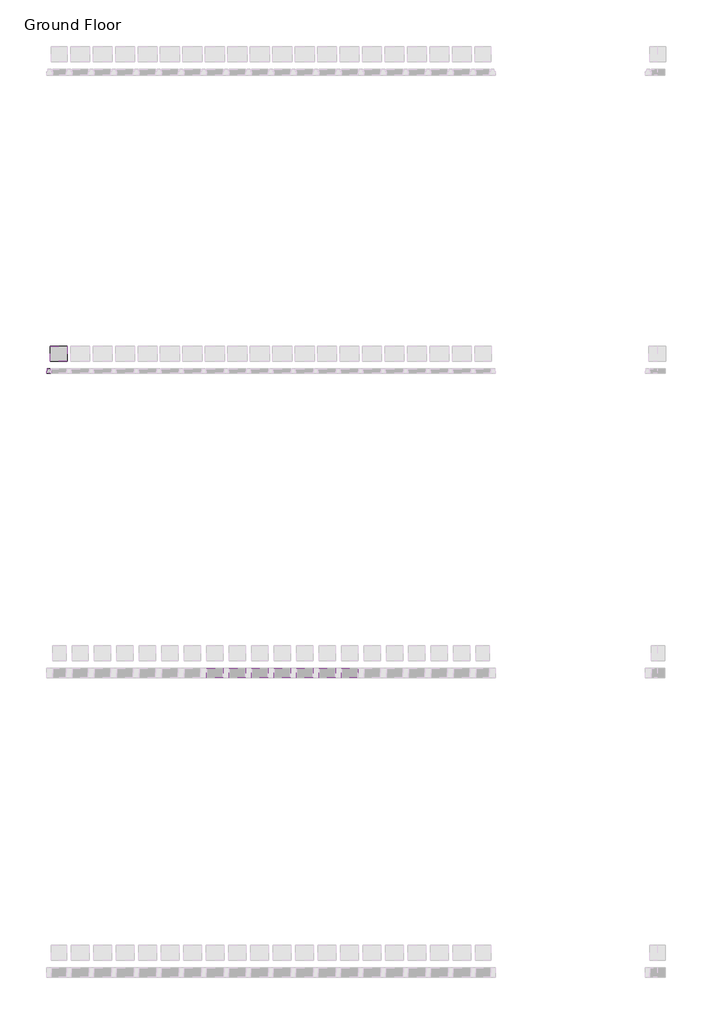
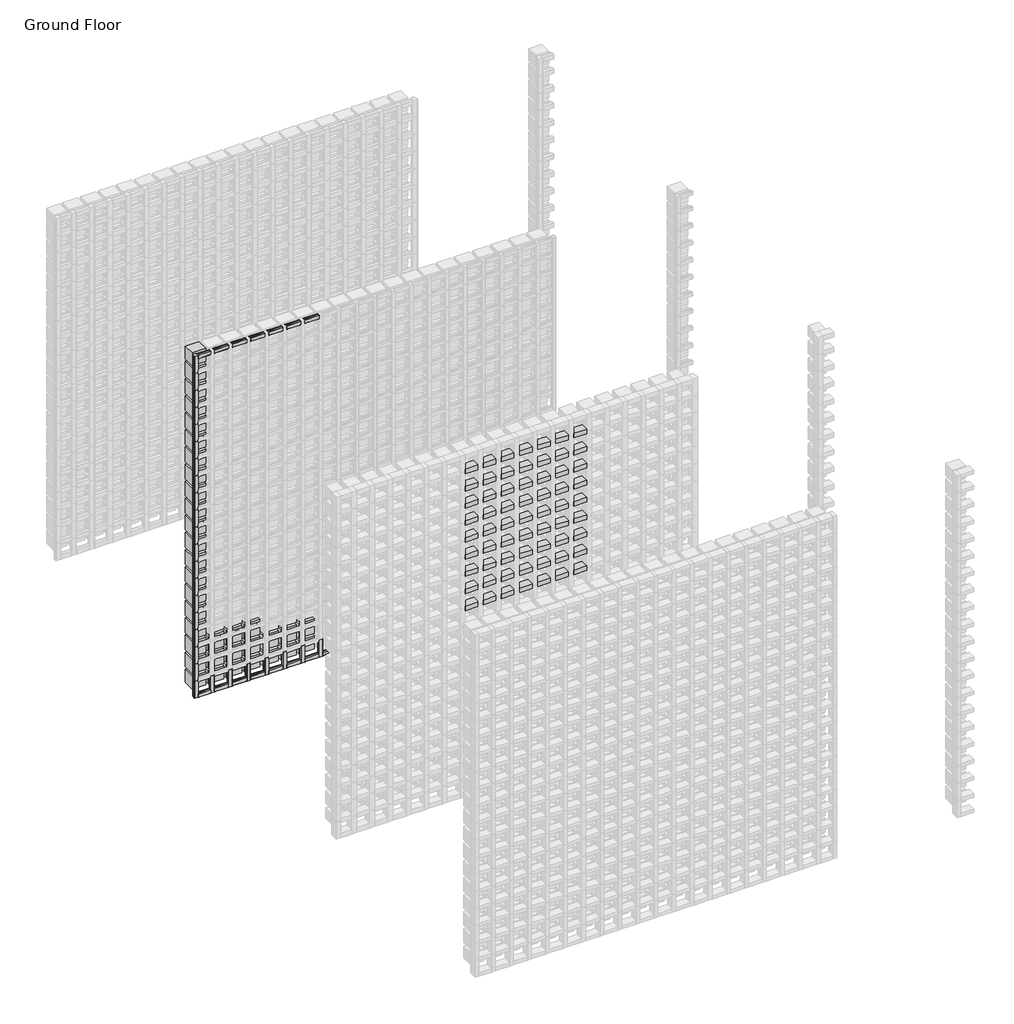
# One storey, part 85 of 350: 105 members, 35 plates.
"""IFC4 building model written with IfcOpenShell, lengths in millimetres."""

from ifc_helpers import new_model, si_unit, origin, place, context, project, spatial, transform, mapped, element, save
from components import rectangular_mullion_97e353d0, rectangular_mullion_f1976eb1, rectangular_mullion_66d447bf, rectangular_mullion_02594090, rectangular_mullion_7f8dba3f, rectangular_mullion_790ae51e, rectangular_mullion_f16743ad, empty_system_panel_empty_5a3607ba, empty_system_panel_empty_c8609655, empty_system_panel_empty_babc703c, empty_system_panel_empty_53187d3d

model = new_model("IFC4")

# Units and contexts
model_context = context("Model", 3, world=origin())
ifc_project = project(units=[si_unit("LENGTHUNIT", "METRE", prefix="MILLI")], contexts=[model_context])

# Site, building, storey
site = spatial("IfcSite", under=ifc_project)
building = spatial("IfcBuilding", under=site)
storey = spatial("IfcBuildingStorey", under=building, Name="Ground Floor", Elevation=0.0)

# Members
placement = place(None, origin())
rectangular_mullion_shape = rectangular_mullion_97e353d0(model_context)
element("IfcMember", 1, ObjectType="Rectangular Mullion : Batten_Timber_Modinex_Austratus_Grid_Fascia_40x65_AlaskanYellowCedar", at=placement, inside=storey, context=model_context, shape_type="MappedRepresentation", body=[
    mapped(rectangular_mullion_shape, transform((3096.4361642, 40968.2978302, 1650.0), x_axis=(0.0, 0.0, 1.0), y_axis=(0.0, -1.0, 0.0), z_axis=(1.0, 0.0, 0.0))),
])
element("IfcMember", 2, ObjectType="Rectangular Mullion : Batten_Timber_Modinex_Austratus_Grid_Fascia_40x65_AlaskanYellowCedar", at=placement, inside=storey, context=model_context, shape_type="MappedRepresentation", body=[
    mapped(rectangular_mullion_shape, transform((3246.4361642, 40968.2978302, 1650.0), x_axis=(0.0, 0.0, 1.0), y_axis=(0.0, -1.0, 0.0), z_axis=(1.0, 0.0, 0.0))),
])
element("IfcMember", 3, ObjectType="Rectangular Mullion : Batten_Timber_Modinex_Austratus_Grid_Fascia_40x65_AlaskanYellowCedar", at=placement, inside=storey, context=model_context, shape_type="MappedRepresentation", body=[
    mapped(rectangular_mullion_shape, transform((3396.4361642, 40968.2978302, 1650.0), x_axis=(0.0, 0.0, 1.0), y_axis=(0.0, -1.0, 0.0), z_axis=(1.0, 0.0, 0.0))),
])
element("IfcMember", 4, ObjectType="Rectangular Mullion : Batten_Timber_Modinex_Austratus_Grid_Fascia_40x65_AlaskanYellowCedar", at=placement, inside=storey, context=model_context, shape_type="MappedRepresentation", body=[
    mapped(rectangular_mullion_shape, transform((3546.4361642, 40968.2978302, 1650.0), x_axis=(0.0, 0.0, 1.0), y_axis=(0.0, -1.0, 0.0), z_axis=(1.0, 0.0, 0.0))),
])
element("IfcMember", 5, ObjectType="Rectangular Mullion : Batten_Timber_Modinex_Austratus_Grid_Fascia_40x65_AlaskanYellowCedar", at=placement, inside=storey, context=model_context, shape_type="MappedRepresentation", body=[
    mapped(rectangular_mullion_shape, transform((3696.4361642, 40968.2978302, 1650.0), x_axis=(0.0, 0.0, 1.0), y_axis=(0.0, -1.0, 0.0), z_axis=(1.0, 0.0, 0.0))),
])
element("IfcMember", 6, ObjectType="Rectangular Mullion : Batten_Timber_Modinex_Austratus_Grid_Fascia_40x65_AlaskanYellowCedar", at=placement, inside=storey, context=model_context, shape_type="MappedRepresentation", body=[
    mapped(rectangular_mullion_shape, transform((3846.4361642, 40968.2978302, 1650.0), x_axis=(0.0, 0.0, 1.0), y_axis=(0.0, -1.0, 0.0), z_axis=(1.0, 0.0, 0.0))),
])
element("IfcMember", 7, ObjectType="Rectangular Mullion : Batten_Timber_Modinex_Austratus_Grid_Fascia_40x65_AlaskanYellowCedar", at=placement, inside=storey, context=model_context, shape_type="MappedRepresentation", body=[
    mapped(rectangular_mullion_shape, transform((3996.4361642, 40968.2978302, 1650.0), x_axis=(0.0, 0.0, 1.0), y_axis=(0.0, -1.0, 0.0), z_axis=(1.0, 0.0, 0.0))),
])
element("IfcMember", 8, ObjectType="Rectangular Mullion : Batten_Timber_Modinex_Austratus_Grid_Fascia_40x65_AlaskanYellowCedar", at=placement, inside=storey, context=model_context, shape_type="MappedRepresentation", body=[
    mapped(rectangular_mullion_shape, transform((3096.4361642, 40968.2978302, 1800.0), x_axis=(0.0, 0.0, 1.0), y_axis=(0.0, -1.0, 0.0), z_axis=(1.0, 0.0, 0.0))),
])
element("IfcMember", 9, ObjectType="Rectangular Mullion : Batten_Timber_Modinex_Austratus_Grid_Fascia_40x65_AlaskanYellowCedar", at=placement, inside=storey, context=model_context, shape_type="MappedRepresentation", body=[
    mapped(rectangular_mullion_shape, transform((3246.4361642, 40968.2978302, 1800.0), x_axis=(0.0, 0.0, 1.0), y_axis=(0.0, -1.0, 0.0), z_axis=(1.0, 0.0, 0.0))),
])
element("IfcMember", 10, ObjectType="Rectangular Mullion : Batten_Timber_Modinex_Austratus_Grid_Fascia_40x65_AlaskanYellowCedar", at=placement, inside=storey, context=model_context, shape_type="MappedRepresentation", body=[
    mapped(rectangular_mullion_shape, transform((3396.4361642, 40968.2978302, 1800.0), x_axis=(0.0, 0.0, 1.0), y_axis=(0.0, -1.0, 0.0), z_axis=(1.0, 0.0, 0.0))),
])
element("IfcMember", 11, ObjectType="Rectangular Mullion : Batten_Timber_Modinex_Austratus_Grid_Fascia_40x65_AlaskanYellowCedar", at=placement, inside=storey, context=model_context, shape_type="MappedRepresentation", body=[
    mapped(rectangular_mullion_shape, transform((3546.4361642, 40968.2978302, 1800.0), x_axis=(0.0, 0.0, 1.0), y_axis=(0.0, -1.0, 0.0), z_axis=(1.0, 0.0, 0.0))),
])
element("IfcMember", 12, ObjectType="Rectangular Mullion : Batten_Timber_Modinex_Austratus_Grid_Fascia_40x65_AlaskanYellowCedar", at=placement, inside=storey, context=model_context, shape_type="MappedRepresentation", body=[
    mapped(rectangular_mullion_shape, transform((3696.4361642, 40968.2978302, 1800.0), x_axis=(0.0, 0.0, 1.0), y_axis=(0.0, -1.0, 0.0), z_axis=(1.0, 0.0, 0.0))),
])
element("IfcMember", 13, ObjectType="Rectangular Mullion : Batten_Timber_Modinex_Austratus_Grid_Fascia_40x65_AlaskanYellowCedar", at=placement, inside=storey, context=model_context, shape_type="MappedRepresentation", body=[
    mapped(rectangular_mullion_shape, transform((3846.4361642, 40968.2978302, 1800.0), x_axis=(0.0, 0.0, 1.0), y_axis=(0.0, -1.0, 0.0), z_axis=(1.0, 0.0, 0.0))),
])
element("IfcMember", 14, ObjectType="Rectangular Mullion : Batten_Timber_Modinex_Austratus_Grid_Fascia_40x65_AlaskanYellowCedar", at=placement, inside=storey, context=model_context, shape_type="MappedRepresentation", body=[
    mapped(rectangular_mullion_shape, transform((3996.4361642, 40968.2978302, 1800.0), x_axis=(0.0, 0.0, 1.0), y_axis=(0.0, -1.0, 0.0), z_axis=(1.0, 0.0, 0.0))),
])
element("IfcMember", 15, ObjectType="Rectangular Mullion : Batten_Timber_Modinex_Austratus_Grid_Fascia_40x65_AlaskanYellowCedar", at=placement, inside=storey, context=model_context, shape_type="MappedRepresentation", body=[
    mapped(rectangular_mullion_shape, transform((3096.4361642, 40968.2978302, 1950.0), x_axis=(0.0, 0.0, 1.0), y_axis=(0.0, -1.0, 0.0), z_axis=(1.0, 0.0, 0.0))),
])
element("IfcMember", 16, ObjectType="Rectangular Mullion : Batten_Timber_Modinex_Austratus_Grid_Fascia_40x65_AlaskanYellowCedar", at=placement, inside=storey, context=model_context, shape_type="MappedRepresentation", body=[
    mapped(rectangular_mullion_shape, transform((3246.4361642, 40968.2978302, 1950.0), x_axis=(0.0, 0.0, 1.0), y_axis=(0.0, -1.0, 0.0), z_axis=(1.0, 0.0, 0.0))),
])
element("IfcMember", 17, ObjectType="Rectangular Mullion : Batten_Timber_Modinex_Austratus_Grid_Fascia_40x65_AlaskanYellowCedar", at=placement, inside=storey, context=model_context, shape_type="MappedRepresentation", body=[
    mapped(rectangular_mullion_shape, transform((3396.4361642, 40968.2978302, 1950.0), x_axis=(0.0, 0.0, 1.0), y_axis=(0.0, -1.0, 0.0), z_axis=(1.0, 0.0, 0.0))),
])
element("IfcMember", 18, ObjectType="Rectangular Mullion : Batten_Timber_Modinex_Austratus_Grid_Fascia_40x65_AlaskanYellowCedar", at=placement, inside=storey, context=model_context, shape_type="MappedRepresentation", body=[
    mapped(rectangular_mullion_shape, transform((3546.4361642, 40968.2978302, 1950.0), x_axis=(0.0, 0.0, 1.0), y_axis=(0.0, -1.0, 0.0), z_axis=(1.0, 0.0, 0.0))),
])
element("IfcMember", 19, ObjectType="Rectangular Mullion : Batten_Timber_Modinex_Austratus_Grid_Fascia_40x65_AlaskanYellowCedar", at=placement, inside=storey, context=model_context, shape_type="MappedRepresentation", body=[
    mapped(rectangular_mullion_shape, transform((3696.4361642, 40968.2978302, 1950.0), x_axis=(0.0, 0.0, 1.0), y_axis=(0.0, -1.0, 0.0), z_axis=(1.0, 0.0, 0.0))),
])
element("IfcMember", 20, ObjectType="Rectangular Mullion : Batten_Timber_Modinex_Austratus_Grid_Fascia_40x65_AlaskanYellowCedar", at=placement, inside=storey, context=model_context, shape_type="MappedRepresentation", body=[
    mapped(rectangular_mullion_shape, transform((3846.4361642, 40968.2978302, 1950.0), x_axis=(0.0, 0.0, 1.0), y_axis=(0.0, -1.0, 0.0), z_axis=(1.0, 0.0, 0.0))),
])
element("IfcMember", 21, ObjectType="Rectangular Mullion : Batten_Timber_Modinex_Austratus_Grid_Fascia_40x65_AlaskanYellowCedar", at=placement, inside=storey, context=model_context, shape_type="MappedRepresentation", body=[
    mapped(rectangular_mullion_shape, transform((3996.4361642, 40968.2978302, 1950.0), x_axis=(0.0, 0.0, 1.0), y_axis=(0.0, -1.0, 0.0), z_axis=(1.0, 0.0, 0.0))),
])
element("IfcMember", 22, ObjectType="Rectangular Mullion : Batten_Timber_Modinex_Austratus_Grid_Fascia_40x65_AlaskanYellowCedar", at=placement, inside=storey, context=model_context, shape_type="MappedRepresentation", body=[
    mapped(rectangular_mullion_shape, transform((3096.4361642, 40968.2978302, 2100.0), x_axis=(0.0, 0.0, 1.0), y_axis=(0.0, -1.0, 0.0), z_axis=(1.0, 0.0, 0.0))),
])
element("IfcMember", 23, ObjectType="Rectangular Mullion : Batten_Timber_Modinex_Austratus_Grid_Fascia_40x65_AlaskanYellowCedar", at=placement, inside=storey, context=model_context, shape_type="MappedRepresentation", body=[
    mapped(rectangular_mullion_shape, transform((3246.4361642, 40968.2978302, 2100.0), x_axis=(0.0, 0.0, 1.0), y_axis=(0.0, -1.0, 0.0), z_axis=(1.0, 0.0, 0.0))),
])
element("IfcMember", 24, ObjectType="Rectangular Mullion : Batten_Timber_Modinex_Austratus_Grid_Fascia_40x65_AlaskanYellowCedar", at=placement, inside=storey, context=model_context, shape_type="MappedRepresentation", body=[
    mapped(rectangular_mullion_shape, transform((3396.4361642, 40968.2978302, 2100.0), x_axis=(0.0, 0.0, 1.0), y_axis=(0.0, -1.0, 0.0), z_axis=(1.0, 0.0, 0.0))),
])
element("IfcMember", 25, ObjectType="Rectangular Mullion : Batten_Timber_Modinex_Austratus_Grid_Fascia_40x65_AlaskanYellowCedar", at=placement, inside=storey, context=model_context, shape_type="MappedRepresentation", body=[
    mapped(rectangular_mullion_shape, transform((3546.4361642, 40968.2978302, 2100.0), x_axis=(0.0, 0.0, 1.0), y_axis=(0.0, -1.0, 0.0), z_axis=(1.0, 0.0, 0.0))),
])
element("IfcMember", 26, ObjectType="Rectangular Mullion : Batten_Timber_Modinex_Austratus_Grid_Fascia_40x65_AlaskanYellowCedar", at=placement, inside=storey, context=model_context, shape_type="MappedRepresentation", body=[
    mapped(rectangular_mullion_shape, transform((3696.4361642, 40968.2978302, 2100.0), x_axis=(0.0, 0.0, 1.0), y_axis=(0.0, -1.0, 0.0), z_axis=(1.0, 0.0, 0.0))),
])
element("IfcMember", 27, ObjectType="Rectangular Mullion : Batten_Timber_Modinex_Austratus_Grid_Fascia_40x65_AlaskanYellowCedar", at=placement, inside=storey, context=model_context, shape_type="MappedRepresentation", body=[
    mapped(rectangular_mullion_shape, transform((3846.4361642, 40968.2978302, 2100.0), x_axis=(0.0, 0.0, 1.0), y_axis=(0.0, -1.0, 0.0), z_axis=(1.0, 0.0, 0.0))),
])
element("IfcMember", 28, ObjectType="Rectangular Mullion : Batten_Timber_Modinex_Austratus_Grid_Fascia_40x65_AlaskanYellowCedar", at=placement, inside=storey, context=model_context, shape_type="MappedRepresentation", body=[
    mapped(rectangular_mullion_shape, transform((3996.4361642, 40968.2978302, 2100.0), x_axis=(0.0, 0.0, 1.0), y_axis=(0.0, -1.0, 0.0), z_axis=(1.0, 0.0, 0.0))),
])
element("IfcMember", 29, ObjectType="Rectangular Mullion : Batten_Timber_Modinex_Austratus_Grid_Fascia_40x65_AlaskanYellowCedar", at=placement, inside=storey, context=model_context, shape_type="MappedRepresentation", body=[
    mapped(rectangular_mullion_shape, transform((3096.4361642, 40968.2978302, 2250.0), x_axis=(0.0, 0.0, 1.0), y_axis=(0.0, -1.0, 0.0), z_axis=(1.0, 0.0, 0.0))),
])
element("IfcMember", 30, ObjectType="Rectangular Mullion : Batten_Timber_Modinex_Austratus_Grid_Fascia_40x65_AlaskanYellowCedar", at=placement, inside=storey, context=model_context, shape_type="MappedRepresentation", body=[
    mapped(rectangular_mullion_shape, transform((3246.4361642, 40968.2978302, 2250.0), x_axis=(0.0, 0.0, 1.0), y_axis=(0.0, -1.0, 0.0), z_axis=(1.0, 0.0, 0.0))),
])
element("IfcMember", 31, ObjectType="Rectangular Mullion : Batten_Timber_Modinex_Austratus_Grid_Fascia_40x65_AlaskanYellowCedar", at=placement, inside=storey, context=model_context, shape_type="MappedRepresentation", body=[
    mapped(rectangular_mullion_shape, transform((3396.4361642, 40968.2978302, 2250.0), x_axis=(0.0, 0.0, 1.0), y_axis=(0.0, -1.0, 0.0), z_axis=(1.0, 0.0, 0.0))),
])
element("IfcMember", 32, ObjectType="Rectangular Mullion : Batten_Timber_Modinex_Austratus_Grid_Fascia_40x65_AlaskanYellowCedar", at=placement, inside=storey, context=model_context, shape_type="MappedRepresentation", body=[
    mapped(rectangular_mullion_shape, transform((3546.4361642, 40968.2978302, 2250.0), x_axis=(0.0, 0.0, 1.0), y_axis=(0.0, -1.0, 0.0), z_axis=(1.0, 0.0, 0.0))),
])
element("IfcMember", 33, ObjectType="Rectangular Mullion : Batten_Timber_Modinex_Austratus_Grid_Fascia_40x65_AlaskanYellowCedar", at=placement, inside=storey, context=model_context, shape_type="MappedRepresentation", body=[
    mapped(rectangular_mullion_shape, transform((3696.4361642, 40968.2978302, 2250.0), x_axis=(0.0, 0.0, 1.0), y_axis=(0.0, -1.0, 0.0), z_axis=(1.0, 0.0, 0.0))),
])
element("IfcMember", 34, ObjectType="Rectangular Mullion : Batten_Timber_Modinex_Austratus_Grid_Fascia_40x65_AlaskanYellowCedar", at=placement, inside=storey, context=model_context, shape_type="MappedRepresentation", body=[
    mapped(rectangular_mullion_shape, transform((3846.4361642, 40968.2978302, 2250.0), x_axis=(0.0, 0.0, 1.0), y_axis=(0.0, -1.0, 0.0), z_axis=(1.0, 0.0, 0.0))),
])
element("IfcMember", 35, ObjectType="Rectangular Mullion : Batten_Timber_Modinex_Austratus_Grid_Fascia_40x65_AlaskanYellowCedar", at=placement, inside=storey, context=model_context, shape_type="MappedRepresentation", body=[
    mapped(rectangular_mullion_shape, transform((3996.4361642, 40968.2978302, 2250.0), x_axis=(0.0, 0.0, 1.0), y_axis=(0.0, -1.0, 0.0), z_axis=(1.0, 0.0, 0.0))),
])
element("IfcMember", 36, ObjectType="Rectangular Mullion : Batten_Timber_Modinex_Austratus_Grid_Fascia_40x65_AlaskanYellowCedar", at=placement, inside=storey, context=model_context, shape_type="MappedRepresentation", body=[
    mapped(rectangular_mullion_shape, transform((3096.4361642, 40968.2978302, 2400.0), x_axis=(0.0, 0.0, 1.0), y_axis=(0.0, -1.0, 0.0), z_axis=(1.0, 0.0, 0.0))),
])
element("IfcMember", 37, ObjectType="Rectangular Mullion : Batten_Timber_Modinex_Austratus_Grid_Fascia_40x65_AlaskanYellowCedar", at=placement, inside=storey, context=model_context, shape_type="MappedRepresentation", body=[
    mapped(rectangular_mullion_shape, transform((3246.4361642, 40968.2978302, 2400.0), x_axis=(0.0, 0.0, 1.0), y_axis=(0.0, -1.0, 0.0), z_axis=(1.0, 0.0, 0.0))),
])
element("IfcMember", 38, ObjectType="Rectangular Mullion : Batten_Timber_Modinex_Austratus_Grid_Fascia_40x65_AlaskanYellowCedar", at=placement, inside=storey, context=model_context, shape_type="MappedRepresentation", body=[
    mapped(rectangular_mullion_shape, transform((3396.4361642, 40968.2978302, 2400.0), x_axis=(0.0, 0.0, 1.0), y_axis=(0.0, -1.0, 0.0), z_axis=(1.0, 0.0, 0.0))),
])
element("IfcMember", 39, ObjectType="Rectangular Mullion : Batten_Timber_Modinex_Austratus_Grid_Fascia_40x65_AlaskanYellowCedar", at=placement, inside=storey, context=model_context, shape_type="MappedRepresentation", body=[
    mapped(rectangular_mullion_shape, transform((3546.4361642, 40968.2978302, 2400.0), x_axis=(0.0, 0.0, 1.0), y_axis=(0.0, -1.0, 0.0), z_axis=(1.0, 0.0, 0.0))),
])
element("IfcMember", 40, ObjectType="Rectangular Mullion : Batten_Timber_Modinex_Austratus_Grid_Fascia_40x65_AlaskanYellowCedar", at=placement, inside=storey, context=model_context, shape_type="MappedRepresentation", body=[
    mapped(rectangular_mullion_shape, transform((3696.4361642, 40968.2978302, 2400.0), x_axis=(0.0, 0.0, 1.0), y_axis=(0.0, -1.0, 0.0), z_axis=(1.0, 0.0, 0.0))),
])
element("IfcMember", 41, ObjectType="Rectangular Mullion : Batten_Timber_Modinex_Austratus_Grid_Fascia_40x65_AlaskanYellowCedar", at=placement, inside=storey, context=model_context, shape_type="MappedRepresentation", body=[
    mapped(rectangular_mullion_shape, transform((3846.4361642, 40968.2978302, 2400.0), x_axis=(0.0, 0.0, 1.0), y_axis=(0.0, -1.0, 0.0), z_axis=(1.0, 0.0, 0.0))),
])
element("IfcMember", 42, ObjectType="Rectangular Mullion : Batten_Timber_Modinex_Austratus_Grid_Fascia_40x65_AlaskanYellowCedar", at=placement, inside=storey, context=model_context, shape_type="MappedRepresentation", body=[
    mapped(rectangular_mullion_shape, transform((3996.4361642, 40968.2978302, 2400.0), x_axis=(0.0, 0.0, 1.0), y_axis=(0.0, -1.0, 0.0), z_axis=(1.0, 0.0, 0.0))),
])
element("IfcMember", 43, ObjectType="Rectangular Mullion : Batten_Timber_Modinex_Austratus_Grid_Fascia_40x65_AlaskanYellowCedar", at=placement, inside=storey, context=model_context, shape_type="MappedRepresentation", body=[
    mapped(rectangular_mullion_shape, transform((3096.4361642, 40968.2978302, 2550.0), x_axis=(0.0, 0.0, 1.0), y_axis=(0.0, -1.0, 0.0), z_axis=(1.0, 0.0, 0.0))),
])
element("IfcMember", 44, ObjectType="Rectangular Mullion : Batten_Timber_Modinex_Austratus_Grid_Fascia_40x65_AlaskanYellowCedar", at=placement, inside=storey, context=model_context, shape_type="MappedRepresentation", body=[
    mapped(rectangular_mullion_shape, transform((3246.4361642, 40968.2978302, 2550.0), x_axis=(0.0, 0.0, 1.0), y_axis=(0.0, -1.0, 0.0), z_axis=(1.0, 0.0, 0.0))),
])
element("IfcMember", 45, ObjectType="Rectangular Mullion : Batten_Timber_Modinex_Austratus_Grid_Fascia_40x65_AlaskanYellowCedar", at=placement, inside=storey, context=model_context, shape_type="MappedRepresentation", body=[
    mapped(rectangular_mullion_shape, transform((3396.4361642, 40968.2978302, 2550.0), x_axis=(0.0, 0.0, 1.0), y_axis=(0.0, -1.0, 0.0), z_axis=(1.0, 0.0, 0.0))),
])
element("IfcMember", 46, ObjectType="Rectangular Mullion : Batten_Timber_Modinex_Austratus_Grid_Fascia_40x65_AlaskanYellowCedar", at=placement, inside=storey, context=model_context, shape_type="MappedRepresentation", body=[
    mapped(rectangular_mullion_shape, transform((3546.4361642, 40968.2978302, 2550.0), x_axis=(0.0, 0.0, 1.0), y_axis=(0.0, -1.0, 0.0), z_axis=(1.0, 0.0, 0.0))),
])
element("IfcMember", 47, ObjectType="Rectangular Mullion : Batten_Timber_Modinex_Austratus_Grid_Fascia_40x65_AlaskanYellowCedar", at=placement, inside=storey, context=model_context, shape_type="MappedRepresentation", body=[
    mapped(rectangular_mullion_shape, transform((3696.4361642, 40968.2978302, 2550.0), x_axis=(0.0, 0.0, 1.0), y_axis=(0.0, -1.0, 0.0), z_axis=(1.0, 0.0, 0.0))),
])
element("IfcMember", 48, ObjectType="Rectangular Mullion : Batten_Timber_Modinex_Austratus_Grid_Fascia_40x65_AlaskanYellowCedar", at=placement, inside=storey, context=model_context, shape_type="MappedRepresentation", body=[
    mapped(rectangular_mullion_shape, transform((3846.4361642, 40968.2978302, 2550.0), x_axis=(0.0, 0.0, 1.0), y_axis=(0.0, -1.0, 0.0), z_axis=(1.0, 0.0, 0.0))),
])
element("IfcMember", 49, ObjectType="Rectangular Mullion : Batten_Timber_Modinex_Austratus_Grid_Fascia_40x65_AlaskanYellowCedar", at=placement, inside=storey, context=model_context, shape_type="MappedRepresentation", body=[
    mapped(rectangular_mullion_shape, transform((3996.4361642, 40968.2978302, 2550.0), x_axis=(0.0, 0.0, 1.0), y_axis=(0.0, -1.0, 0.0), z_axis=(1.0, 0.0, 0.0))),
])
element("IfcMember", 50, ObjectType="Rectangular Mullion : Batten_Timber_Modinex_Austratus_Grid_Fascia_40x65_AlaskanYellowCedar", at=placement, inside=storey, context=model_context, shape_type="MappedRepresentation", body=[
    mapped(rectangular_mullion_shape, transform((3096.4361642, 40968.2978302, 2700.0), x_axis=(0.0, 0.0, 1.0), y_axis=(0.0, -1.0, 0.0), z_axis=(1.0, 0.0, 0.0))),
])
element("IfcMember", 51, ObjectType="Rectangular Mullion : Batten_Timber_Modinex_Austratus_Grid_Fascia_40x65_AlaskanYellowCedar", at=placement, inside=storey, context=model_context, shape_type="MappedRepresentation", body=[
    mapped(rectangular_mullion_shape, transform((3246.4361642, 40968.2978302, 2700.0), x_axis=(0.0, 0.0, 1.0), y_axis=(0.0, -1.0, 0.0), z_axis=(1.0, 0.0, 0.0))),
])
element("IfcMember", 52, ObjectType="Rectangular Mullion : Batten_Timber_Modinex_Austratus_Grid_Fascia_40x65_AlaskanYellowCedar", at=placement, inside=storey, context=model_context, shape_type="MappedRepresentation", body=[
    mapped(rectangular_mullion_shape, transform((3396.4361642, 40968.2978302, 2700.0), x_axis=(0.0, 0.0, 1.0), y_axis=(0.0, -1.0, 0.0), z_axis=(1.0, 0.0, 0.0))),
])
element("IfcMember", 53, ObjectType="Rectangular Mullion : Batten_Timber_Modinex_Austratus_Grid_Fascia_40x65_AlaskanYellowCedar", at=placement, inside=storey, context=model_context, shape_type="MappedRepresentation", body=[
    mapped(rectangular_mullion_shape, transform((3546.4361642, 40968.2978302, 2700.0), x_axis=(0.0, 0.0, 1.0), y_axis=(0.0, -1.0, 0.0), z_axis=(1.0, 0.0, 0.0))),
])
element("IfcMember", 54, ObjectType="Rectangular Mullion : Batten_Timber_Modinex_Austratus_Grid_Fascia_40x65_AlaskanYellowCedar", at=placement, inside=storey, context=model_context, shape_type="MappedRepresentation", body=[
    mapped(rectangular_mullion_shape, transform((3696.4361642, 40968.2978302, 2700.0), x_axis=(0.0, 0.0, 1.0), y_axis=(0.0, -1.0, 0.0), z_axis=(1.0, 0.0, 0.0))),
])
element("IfcMember", 55, ObjectType="Rectangular Mullion : Batten_Timber_Modinex_Austratus_Grid_Fascia_40x65_AlaskanYellowCedar", at=placement, inside=storey, context=model_context, shape_type="MappedRepresentation", body=[
    mapped(rectangular_mullion_shape, transform((3846.4361642, 40968.2978302, 2700.0), x_axis=(0.0, 0.0, 1.0), y_axis=(0.0, -1.0, 0.0), z_axis=(1.0, 0.0, 0.0))),
])
element("IfcMember", 56, ObjectType="Rectangular Mullion : Batten_Timber_Modinex_Austratus_Grid_Fascia_40x65_AlaskanYellowCedar", at=placement, inside=storey, context=model_context, shape_type="MappedRepresentation", body=[
    mapped(rectangular_mullion_shape, transform((3996.4361642, 40968.2978302, 2700.0), x_axis=(0.0, 0.0, 1.0), y_axis=(0.0, -1.0, 0.0), z_axis=(1.0, 0.0, 0.0))),
])
element("IfcMember", 57, ObjectType="Rectangular Mullion : Batten_Timber_Modinex_Austratus_Grid_Fascia_40x65_AlaskanYellowCedar", at=placement, inside=storey, context=model_context, shape_type="MappedRepresentation", body=[
    mapped(rectangular_mullion_shape, transform((3096.4361642, 40968.2978302, 2850.0), x_axis=(0.0, 0.0, 1.0), y_axis=(0.0, -1.0, 0.0), z_axis=(1.0, 0.0, 0.0))),
])
element("IfcMember", 58, ObjectType="Rectangular Mullion : Batten_Timber_Modinex_Austratus_Grid_Fascia_40x65_AlaskanYellowCedar", at=placement, inside=storey, context=model_context, shape_type="MappedRepresentation", body=[
    mapped(rectangular_mullion_shape, transform((3246.4361642, 40968.2978302, 2850.0), x_axis=(0.0, 0.0, 1.0), y_axis=(0.0, -1.0, 0.0), z_axis=(1.0, 0.0, 0.0))),
])
element("IfcMember", 59, ObjectType="Rectangular Mullion : Batten_Timber_Modinex_Austratus_Grid_Fascia_40x65_AlaskanYellowCedar", at=placement, inside=storey, context=model_context, shape_type="MappedRepresentation", body=[
    mapped(rectangular_mullion_shape, transform((3396.4361642, 40968.2978302, 2850.0), x_axis=(0.0, 0.0, 1.0), y_axis=(0.0, -1.0, 0.0), z_axis=(1.0, 0.0, 0.0))),
])
element("IfcMember", 60, ObjectType="Rectangular Mullion : Batten_Timber_Modinex_Austratus_Grid_Fascia_40x65_AlaskanYellowCedar", at=placement, inside=storey, context=model_context, shape_type="MappedRepresentation", body=[
    mapped(rectangular_mullion_shape, transform((3546.4361642, 40968.2978302, 2850.0), x_axis=(0.0, 0.0, 1.0), y_axis=(0.0, -1.0, 0.0), z_axis=(1.0, 0.0, 0.0))),
])
element("IfcMember", 61, ObjectType="Rectangular Mullion : Batten_Timber_Modinex_Austratus_Grid_Fascia_40x65_AlaskanYellowCedar", at=placement, inside=storey, context=model_context, shape_type="MappedRepresentation", body=[
    mapped(rectangular_mullion_shape, transform((3696.4361642, 40968.2978302, 2850.0), x_axis=(0.0, 0.0, 1.0), y_axis=(0.0, -1.0, 0.0), z_axis=(1.0, 0.0, 0.0))),
])
element("IfcMember", 62, ObjectType="Rectangular Mullion : Batten_Timber_Modinex_Austratus_Grid_Fascia_40x65_AlaskanYellowCedar", at=placement, inside=storey, context=model_context, shape_type="MappedRepresentation", body=[
    mapped(rectangular_mullion_shape, transform((3846.4361642, 40968.2978302, 2850.0), x_axis=(0.0, 0.0, 1.0), y_axis=(0.0, -1.0, 0.0), z_axis=(1.0, 0.0, 0.0))),
])
element("IfcMember", 63, ObjectType="Rectangular Mullion : Batten_Timber_Modinex_Austratus_Grid_Fascia_40x65_AlaskanYellowCedar", at=placement, inside=storey, context=model_context, shape_type="MappedRepresentation", body=[
    mapped(rectangular_mullion_shape, transform((3996.4361642, 40968.2978302, 2850.0), x_axis=(0.0, 0.0, 1.0), y_axis=(0.0, -1.0, 0.0), z_axis=(1.0, 0.0, 0.0))),
])
rectangular_mullion_2_shape = rectangular_mullion_f1976eb1(model_context)
element("IfcMember", 64, ObjectType="Rectangular Mullion : Batten_Timber_Modinex_Austratus_Grid_Fin_30x30_AlaskanYellowCedar", at=placement, inside=storey, context=model_context, shape_type="MappedRepresentation", body=[
    mapped(rectangular_mullion_2_shape, transform((2066.4361642, 42968.2978302, 0.0), x_axis=(1.0, 0.0, 0.0), y_axis=(0.0, -1.0, 0.0), z_axis=(0.0, 0.0, -1.0))),
])
element("IfcMember", 65, ObjectType="Rectangular Mullion : Batten_Timber_Modinex_Austratus_Grid_Fin_30x30_AlaskanYellowCedar", at=placement, inside=storey, context=model_context, shape_type="MappedRepresentation", body=[
    mapped(rectangular_mullion_2_shape, transform((2216.4361642, 42968.2978302, 0.0), x_axis=(1.0, 0.0, 0.0), y_axis=(0.0, -1.0, 0.0), z_axis=(0.0, 0.0, -1.0))),
])
element("IfcMember", 66, ObjectType="Rectangular Mullion : Batten_Timber_Modinex_Austratus_Grid_Fin_30x30_AlaskanYellowCedar", at=placement, inside=storey, context=model_context, shape_type="MappedRepresentation", body=[
    mapped(rectangular_mullion_2_shape, transform((2366.4361642, 42968.2978302, 0.0), x_axis=(1.0, 0.0, 0.0), y_axis=(0.0, -1.0, 0.0), z_axis=(0.0, 0.0, -1.0))),
])
element("IfcMember", 67, ObjectType="Rectangular Mullion : Batten_Timber_Modinex_Austratus_Grid_Fin_30x30_AlaskanYellowCedar", at=placement, inside=storey, context=model_context, shape_type="MappedRepresentation", body=[
    mapped(rectangular_mullion_2_shape, transform((2516.4361642, 42968.2978302, 0.0), x_axis=(1.0, 0.0, 0.0), y_axis=(0.0, -1.0, 0.0), z_axis=(0.0, 0.0, -1.0))),
])
element("IfcMember", 68, ObjectType="Rectangular Mullion : Batten_Timber_Modinex_Austratus_Grid_Fin_30x30_AlaskanYellowCedar", at=placement, inside=storey, context=model_context, shape_type="MappedRepresentation", body=[
    mapped(rectangular_mullion_2_shape, transform((2666.4361642, 42968.2978302, 0.0), x_axis=(1.0, 0.0, 0.0), y_axis=(0.0, -1.0, 0.0), z_axis=(0.0, 0.0, -1.0))),
])
element("IfcMember", 69, ObjectType="Rectangular Mullion : Batten_Timber_Modinex_Austratus_Grid_Fin_30x30_AlaskanYellowCedar", at=placement, inside=storey, context=model_context, shape_type="MappedRepresentation", body=[
    mapped(rectangular_mullion_2_shape, transform((2816.4361642, 42968.2978302, 0.0), x_axis=(1.0, 0.0, 0.0), y_axis=(0.0, -1.0, 0.0), z_axis=(0.0, 0.0, -1.0))),
])
element("IfcMember", 70, ObjectType="Rectangular Mullion : Batten_Timber_Modinex_Austratus_Grid_Fin_30x30_AlaskanYellowCedar", at=placement, inside=storey, context=model_context, shape_type="MappedRepresentation", body=[
    mapped(rectangular_mullion_2_shape, transform((2966.4361642, 42968.2978302, 0.0), x_axis=(1.0, 0.0, 0.0), y_axis=(0.0, -1.0, 0.0), z_axis=(0.0, 0.0, -1.0))),
])
rectangular_mullion_3_shape = rectangular_mullion_66d447bf(model_context)
element("IfcMember", 71, ObjectType="Rectangular Mullion : Batten_Timber_Modinex_Austratus_Grid_Fin_30x30_AlaskanYellowCedar", at=placement, inside=storey, context=model_context, shape_type="MappedRepresentation", body=[
    mapped(rectangular_mullion_3_shape, transform((2051.4361642, 42968.2978302, 3000.0), x_axis=(0.0, 0.0, 1.0), y_axis=(0.0, -1.0, 0.0), z_axis=(1.0, 0.0, 0.0))),
])
rectangular_mullion_4_shape = rectangular_mullion_02594090(model_context)
element("IfcMember", 72, ObjectType="Rectangular Mullion : Batten_Timber_Modinex_Austratus_Grid_Fin_30x30_AlaskanYellowCedar", at=placement, inside=storey, context=model_context, shape_type="MappedRepresentation", body=[
    mapped(rectangular_mullion_4_shape, transform((2201.4361642, 42968.2978302, 3000.0), x_axis=(0.0, 0.0, 1.0), y_axis=(0.0, -1.0, 0.0), z_axis=(1.0, 0.0, 0.0))),
])
element("IfcMember", 73, ObjectType="Rectangular Mullion : Batten_Timber_Modinex_Austratus_Grid_Fin_30x30_AlaskanYellowCedar", at=placement, inside=storey, context=model_context, shape_type="MappedRepresentation", body=[
    mapped(rectangular_mullion_4_shape, transform((2351.4361642, 42968.2978302, 3000.0), x_axis=(0.0, 0.0, 1.0), y_axis=(0.0, -1.0, 0.0), z_axis=(1.0, 0.0, 0.0))),
])
element("IfcMember", 74, ObjectType="Rectangular Mullion : Batten_Timber_Modinex_Austratus_Grid_Fin_30x30_AlaskanYellowCedar", at=placement, inside=storey, context=model_context, shape_type="MappedRepresentation", body=[
    mapped(rectangular_mullion_4_shape, transform((2501.4361642, 42968.2978302, 3000.0), x_axis=(0.0, 0.0, 1.0), y_axis=(0.0, -1.0, 0.0), z_axis=(1.0, 0.0, 0.0))),
])
element("IfcMember", 75, ObjectType="Rectangular Mullion : Batten_Timber_Modinex_Austratus_Grid_Fin_30x30_AlaskanYellowCedar", at=placement, inside=storey, context=model_context, shape_type="MappedRepresentation", body=[
    mapped(rectangular_mullion_4_shape, transform((2651.4361642, 42968.2978302, 3000.0), x_axis=(0.0, 0.0, 1.0), y_axis=(0.0, -1.0, 0.0), z_axis=(1.0, 0.0, 0.0))),
])
element("IfcMember", 76, ObjectType="Rectangular Mullion : Batten_Timber_Modinex_Austratus_Grid_Fin_30x30_AlaskanYellowCedar", at=placement, inside=storey, context=model_context, shape_type="MappedRepresentation", body=[
    mapped(rectangular_mullion_4_shape, transform((2801.4361642, 42968.2978302, 3000.0), x_axis=(0.0, 0.0, 1.0), y_axis=(0.0, -1.0, 0.0), z_axis=(1.0, 0.0, 0.0))),
])
element("IfcMember", 77, ObjectType="Rectangular Mullion : Batten_Timber_Modinex_Austratus_Grid_Fin_30x30_AlaskanYellowCedar", at=placement, inside=storey, context=model_context, shape_type="MappedRepresentation", body=[
    mapped(rectangular_mullion_4_shape, transform((2951.4361642, 42968.2978302, 3000.0), x_axis=(0.0, 0.0, 1.0), y_axis=(0.0, -1.0, 0.0), z_axis=(1.0, 0.0, 0.0))),
])
rectangular_mullion_5_shape = rectangular_mullion_7f8dba3f(model_context)
element("IfcMember", 78, ObjectType="Rectangular Mullion : Batten_Timber_Modinex_Austratus_Grid_Fin_30x30_AlaskanYellowCedar", at=placement, inside=storey, context=model_context, shape_type="MappedRepresentation", body=[
    mapped(rectangular_mullion_5_shape, transform((1946.4361639, 42968.2978302, 0.0), x_axis=(0.0, 0.0, -1.0), y_axis=(0.0, -1.0, 0.0), z_axis=(-1.0, 0.0, 0.0))),
])
rectangular_mullion_6_shape = rectangular_mullion_790ae51e(model_context)
element("IfcMember", 79, ObjectType="Rectangular Mullion : Batten_Timber_Modinex_Austratus_Grid_Fin_30x30_AlaskanYellowCedar", at=placement, inside=storey, context=model_context, shape_type="MappedRepresentation", body=[
    mapped(rectangular_mullion_6_shape, transform((2081.4361642, 42968.2978302, 0.0), x_axis=(0.0, 0.0, -1.0), y_axis=(0.0, -1.0, 0.0), z_axis=(-1.0, 0.0, 0.0))),
])
element("IfcMember", 80, ObjectType="Rectangular Mullion : Batten_Timber_Modinex_Austratus_Grid_Fin_30x30_AlaskanYellowCedar", at=placement, inside=storey, context=model_context, shape_type="MappedRepresentation", body=[
    mapped(rectangular_mullion_6_shape, transform((2231.4361642, 42968.2978302, 0.0), x_axis=(0.0, 0.0, -1.0), y_axis=(0.0, -1.0, 0.0), z_axis=(-1.0, 0.0, 0.0))),
])
element("IfcMember", 81, ObjectType="Rectangular Mullion : Batten_Timber_Modinex_Austratus_Grid_Fin_30x30_AlaskanYellowCedar", at=placement, inside=storey, context=model_context, shape_type="MappedRepresentation", body=[
    mapped(rectangular_mullion_6_shape, transform((2381.4361642, 42968.2978302, 0.0), x_axis=(0.0, 0.0, -1.0), y_axis=(0.0, -1.0, 0.0), z_axis=(-1.0, 0.0, 0.0))),
])
element("IfcMember", 82, ObjectType="Rectangular Mullion : Batten_Timber_Modinex_Austratus_Grid_Fin_30x30_AlaskanYellowCedar", at=placement, inside=storey, context=model_context, shape_type="MappedRepresentation", body=[
    mapped(rectangular_mullion_6_shape, transform((2531.4361642, 42968.2978302, 0.0), x_axis=(0.0, 0.0, -1.0), y_axis=(0.0, -1.0, 0.0), z_axis=(-1.0, 0.0, 0.0))),
])
element("IfcMember", 83, ObjectType="Rectangular Mullion : Batten_Timber_Modinex_Austratus_Grid_Fin_30x30_AlaskanYellowCedar", at=placement, inside=storey, context=model_context, shape_type="MappedRepresentation", body=[
    mapped(rectangular_mullion_6_shape, transform((2681.4361642, 42968.2978302, 0.0), x_axis=(0.0, 0.0, -1.0), y_axis=(0.0, -1.0, 0.0), z_axis=(-1.0, 0.0, 0.0))),
])
element("IfcMember", 84, ObjectType="Rectangular Mullion : Batten_Timber_Modinex_Austratus_Grid_Fin_30x30_AlaskanYellowCedar", at=placement, inside=storey, context=model_context, shape_type="MappedRepresentation", body=[
    mapped(rectangular_mullion_6_shape, transform((2831.4361642, 42968.2978302, 0.0), x_axis=(0.0, 0.0, -1.0), y_axis=(0.0, -1.0, 0.0), z_axis=(-1.0, 0.0, 0.0))),
])
element("IfcMember", 85, ObjectType="Rectangular Mullion : Batten_Timber_Modinex_Austratus_Grid_Fin_30x30_AlaskanYellowCedar", at=placement, inside=storey, context=model_context, shape_type="MappedRepresentation", body=[
    mapped(rectangular_mullion_6_shape, transform((2981.4361642, 42968.2978302, 0.0), x_axis=(0.0, 0.0, -1.0), y_axis=(0.0, -1.0, 0.0), z_axis=(-1.0, 0.0, 0.0))),
])
rectangular_mullion_7_shape = rectangular_mullion_f16743ad(model_context)
element("IfcMember", 86, ObjectType="Rectangular Mullion : Batten_Timber_Modinex_Austratus_Grid_Fin_30x30_AlaskanYellowCedar", at=placement, inside=storey, context=model_context, shape_type="MappedRepresentation", body=[
    mapped(rectangular_mullion_7_shape, transform((1916.4361639, 42968.2978302, 3000.0), x_axis=(-1.0, 0.0, 0.0), y_axis=(0.0, -1.0, 0.0), z_axis=(0.0, 0.0, 1.0))),
])
element("IfcMember", 87, ObjectType="Rectangular Mullion : Batten_Timber_Modinex_Austratus_Grid_Fin_30x30_AlaskanYellowCedar", at=placement, inside=storey, context=model_context, shape_type="MappedRepresentation", body=[
    mapped(rectangular_mullion_7_shape, transform((1916.4361639, 42968.2978302, 150.0), x_axis=(-1.0, 0.0, 0.0), y_axis=(0.0, -1.0, 0.0), z_axis=(0.0, 0.0, 1.0))),
])
element("IfcMember", 88, ObjectType="Rectangular Mullion : Batten_Timber_Modinex_Austratus_Grid_Fin_30x30_AlaskanYellowCedar", at=placement, inside=storey, context=model_context, shape_type="MappedRepresentation", body=[
    mapped(rectangular_mullion_7_shape, transform((1916.4361639, 42968.2978302, 300.0), x_axis=(-1.0, 0.0, 0.0), y_axis=(0.0, -1.0, 0.0), z_axis=(0.0, 0.0, 1.0))),
])
element("IfcMember", 89, ObjectType="Rectangular Mullion : Batten_Timber_Modinex_Austratus_Grid_Fin_30x30_AlaskanYellowCedar", at=placement, inside=storey, context=model_context, shape_type="MappedRepresentation", body=[
    mapped(rectangular_mullion_7_shape, transform((1916.4361639, 42968.2978302, 450.0), x_axis=(-1.0, 0.0, 0.0), y_axis=(0.0, -1.0, 0.0), z_axis=(0.0, 0.0, 1.0))),
])
element("IfcMember", 90, ObjectType="Rectangular Mullion : Batten_Timber_Modinex_Austratus_Grid_Fin_30x30_AlaskanYellowCedar", at=placement, inside=storey, context=model_context, shape_type="MappedRepresentation", body=[
    mapped(rectangular_mullion_7_shape, transform((1916.4361639, 42968.2978302, 600.0), x_axis=(-1.0, 0.0, 0.0), y_axis=(0.0, -1.0, 0.0), z_axis=(0.0, 0.0, 1.0))),
])
element("IfcMember", 91, ObjectType="Rectangular Mullion : Batten_Timber_Modinex_Austratus_Grid_Fin_30x30_AlaskanYellowCedar", at=placement, inside=storey, context=model_context, shape_type="MappedRepresentation", body=[
    mapped(rectangular_mullion_7_shape, transform((1916.4361639, 42968.2978302, 750.0), x_axis=(-1.0, 0.0, 0.0), y_axis=(0.0, -1.0, 0.0), z_axis=(0.0, 0.0, 1.0))),
])
element("IfcMember", 92, ObjectType="Rectangular Mullion : Batten_Timber_Modinex_Austratus_Grid_Fin_30x30_AlaskanYellowCedar", at=placement, inside=storey, context=model_context, shape_type="MappedRepresentation", body=[
    mapped(rectangular_mullion_7_shape, transform((1916.4361639, 42968.2978302, 900.0), x_axis=(-1.0, 0.0, 0.0), y_axis=(0.0, -1.0, 0.0), z_axis=(0.0, 0.0, 1.0))),
])
element("IfcMember", 93, ObjectType="Rectangular Mullion : Batten_Timber_Modinex_Austratus_Grid_Fin_30x30_AlaskanYellowCedar", at=placement, inside=storey, context=model_context, shape_type="MappedRepresentation", body=[
    mapped(rectangular_mullion_7_shape, transform((1916.4361639, 42968.2978302, 1050.0), x_axis=(-1.0, 0.0, 0.0), y_axis=(0.0, -1.0, 0.0), z_axis=(0.0, 0.0, 1.0))),
])
element("IfcMember", 94, ObjectType="Rectangular Mullion : Batten_Timber_Modinex_Austratus_Grid_Fin_30x30_AlaskanYellowCedar", at=placement, inside=storey, context=model_context, shape_type="MappedRepresentation", body=[
    mapped(rectangular_mullion_7_shape, transform((1916.4361639, 42968.2978302, 1200.0), x_axis=(-1.0, 0.0, 0.0), y_axis=(0.0, -1.0, 0.0), z_axis=(0.0, 0.0, 1.0))),
])
element("IfcMember", 95, ObjectType="Rectangular Mullion : Batten_Timber_Modinex_Austratus_Grid_Fin_30x30_AlaskanYellowCedar", at=placement, inside=storey, context=model_context, shape_type="MappedRepresentation", body=[
    mapped(rectangular_mullion_7_shape, transform((1916.4361639, 42968.2978302, 1350.0), x_axis=(-1.0, 0.0, 0.0), y_axis=(0.0, -1.0, 0.0), z_axis=(0.0, 0.0, 1.0))),
])
element("IfcMember", 96, ObjectType="Rectangular Mullion : Batten_Timber_Modinex_Austratus_Grid_Fin_30x30_AlaskanYellowCedar", at=placement, inside=storey, context=model_context, shape_type="MappedRepresentation", body=[
    mapped(rectangular_mullion_7_shape, transform((1916.4361639, 42968.2978302, 1500.0), x_axis=(-1.0, 0.0, 0.0), y_axis=(0.0, -1.0, 0.0), z_axis=(0.0, 0.0, 1.0))),
])
element("IfcMember", 97, ObjectType="Rectangular Mullion : Batten_Timber_Modinex_Austratus_Grid_Fin_30x30_AlaskanYellowCedar", at=placement, inside=storey, context=model_context, shape_type="MappedRepresentation", body=[
    mapped(rectangular_mullion_7_shape, transform((1916.4361639, 42968.2978302, 1650.0), x_axis=(-1.0, 0.0, 0.0), y_axis=(0.0, -1.0, 0.0), z_axis=(0.0, 0.0, 1.0))),
])
element("IfcMember", 98, ObjectType="Rectangular Mullion : Batten_Timber_Modinex_Austratus_Grid_Fin_30x30_AlaskanYellowCedar", at=placement, inside=storey, context=model_context, shape_type="MappedRepresentation", body=[
    mapped(rectangular_mullion_7_shape, transform((1916.4361639, 42968.2978302, 1800.0), x_axis=(-1.0, 0.0, 0.0), y_axis=(0.0, -1.0, 0.0), z_axis=(0.0, 0.0, 1.0))),
])
element("IfcMember", 99, ObjectType="Rectangular Mullion : Batten_Timber_Modinex_Austratus_Grid_Fin_30x30_AlaskanYellowCedar", at=placement, inside=storey, context=model_context, shape_type="MappedRepresentation", body=[
    mapped(rectangular_mullion_7_shape, transform((1916.4361639, 42968.2978302, 1950.0), x_axis=(-1.0, 0.0, 0.0), y_axis=(0.0, -1.0, 0.0), z_axis=(0.0, 0.0, 1.0))),
])
element("IfcMember", 100, ObjectType="Rectangular Mullion : Batten_Timber_Modinex_Austratus_Grid_Fin_30x30_AlaskanYellowCedar", at=placement, inside=storey, context=model_context, shape_type="MappedRepresentation", body=[
    mapped(rectangular_mullion_7_shape, transform((1916.4361639, 42968.2978302, 2100.0), x_axis=(-1.0, 0.0, 0.0), y_axis=(0.0, -1.0, 0.0), z_axis=(0.0, 0.0, 1.0))),
])
element("IfcMember", 101, ObjectType="Rectangular Mullion : Batten_Timber_Modinex_Austratus_Grid_Fin_30x30_AlaskanYellowCedar", at=placement, inside=storey, context=model_context, shape_type="MappedRepresentation", body=[
    mapped(rectangular_mullion_7_shape, transform((1916.4361639, 42968.2978302, 2250.0), x_axis=(-1.0, 0.0, 0.0), y_axis=(0.0, -1.0, 0.0), z_axis=(0.0, 0.0, 1.0))),
])
element("IfcMember", 102, ObjectType="Rectangular Mullion : Batten_Timber_Modinex_Austratus_Grid_Fin_30x30_AlaskanYellowCedar", at=placement, inside=storey, context=model_context, shape_type="MappedRepresentation", body=[
    mapped(rectangular_mullion_7_shape, transform((1916.4361639, 42968.2978302, 2400.0), x_axis=(-1.0, 0.0, 0.0), y_axis=(0.0, -1.0, 0.0), z_axis=(0.0, 0.0, 1.0))),
])
element("IfcMember", 103, ObjectType="Rectangular Mullion : Batten_Timber_Modinex_Austratus_Grid_Fin_30x30_AlaskanYellowCedar", at=placement, inside=storey, context=model_context, shape_type="MappedRepresentation", body=[
    mapped(rectangular_mullion_7_shape, transform((1916.4361639, 42968.2978302, 2550.0), x_axis=(-1.0, 0.0, 0.0), y_axis=(0.0, -1.0, 0.0), z_axis=(0.0, 0.0, 1.0))),
])
element("IfcMember", 104, ObjectType="Rectangular Mullion : Batten_Timber_Modinex_Austratus_Grid_Fin_30x30_AlaskanYellowCedar", at=placement, inside=storey, context=model_context, shape_type="MappedRepresentation", body=[
    mapped(rectangular_mullion_7_shape, transform((1916.4361639, 42968.2978302, 2700.0), x_axis=(-1.0, 0.0, 0.0), y_axis=(0.0, -1.0, 0.0), z_axis=(0.0, 0.0, 1.0))),
])
element("IfcMember", 105, ObjectType="Rectangular Mullion : Batten_Timber_Modinex_Austratus_Grid_Fin_30x30_AlaskanYellowCedar", at=placement, inside=storey, context=model_context, shape_type="MappedRepresentation", body=[
    mapped(rectangular_mullion_7_shape, transform((1916.4361639, 42968.2978302, 2850.0), x_axis=(-1.0, 0.0, 0.0), y_axis=(0.0, -1.0, 0.0), z_axis=(0.0, 0.0, 1.0))),
])

# Plates
empty_system_panel_empty_shape = empty_system_panel_empty_5a3607ba(model_context)
element("IfcPlate", 106, ObjectType="Empty System Panel : Empty", at=placement, inside=storey, context=model_context, shape_type="MappedRepresentation", body=[
    mapped(empty_system_panel_empty_shape, transform((2141.4361642, 42968.2978302, 160.812195), x_axis=(1.0, 0.0, 0.0), y_axis=(0.0, 1.0, 0.0), z_axis=(0.0, 0.0, 1.0))),
])
element("IfcPlate", 107, ObjectType="Empty System Panel : Empty", at=placement, inside=storey, context=model_context, shape_type="MappedRepresentation", body=[
    mapped(empty_system_panel_empty_shape, transform((2291.4361642, 42968.2978302, 160.812195), x_axis=(1.0, 0.0, 0.0), y_axis=(0.0, 1.0, 0.0), z_axis=(0.0, 0.0, 1.0))),
])
element("IfcPlate", 108, ObjectType="Empty System Panel : Empty", at=placement, inside=storey, context=model_context, shape_type="MappedRepresentation", body=[
    mapped(empty_system_panel_empty_shape, transform((2441.4361642, 42968.2978302, 160.812195), x_axis=(1.0, 0.0, 0.0), y_axis=(0.0, 1.0, 0.0), z_axis=(0.0, 0.0, 1.0))),
])
element("IfcPlate", 109, ObjectType="Empty System Panel : Empty", at=placement, inside=storey, context=model_context, shape_type="MappedRepresentation", body=[
    mapped(empty_system_panel_empty_shape, transform((2591.4361642, 42968.2978302, 160.812195), x_axis=(1.0, 0.0, 0.0), y_axis=(0.0, 1.0, 0.0), z_axis=(0.0, 0.0, 1.0))),
])
element("IfcPlate", 110, ObjectType="Empty System Panel : Empty", at=placement, inside=storey, context=model_context, shape_type="MappedRepresentation", body=[
    mapped(empty_system_panel_empty_shape, transform((2741.4361642, 42968.2978302, 160.812195), x_axis=(1.0, 0.0, 0.0), y_axis=(0.0, 1.0, 0.0), z_axis=(0.0, 0.0, 1.0))),
])
element("IfcPlate", 111, ObjectType="Empty System Panel : Empty", at=placement, inside=storey, context=model_context, shape_type="MappedRepresentation", body=[
    mapped(empty_system_panel_empty_shape, transform((2891.4361642, 42968.2978302, 160.812195), x_axis=(1.0, 0.0, 0.0), y_axis=(0.0, 1.0, 0.0), z_axis=(0.0, 0.0, 1.0))),
])
element("IfcPlate", 112, ObjectType="Empty System Panel : Empty", at=placement, inside=storey, context=model_context, shape_type="MappedRepresentation", body=[
    mapped(empty_system_panel_empty_shape, transform((2141.4361642, 42968.2978302, 310.812195), x_axis=(1.0, 0.0, 0.0), y_axis=(0.0, 1.0, 0.0), z_axis=(0.0, 0.0, 1.0))),
])
element("IfcPlate", 113, ObjectType="Empty System Panel : Empty", at=placement, inside=storey, context=model_context, shape_type="MappedRepresentation", body=[
    mapped(empty_system_panel_empty_shape, transform((2291.4361642, 42968.2978302, 310.812195), x_axis=(1.0, 0.0, 0.0), y_axis=(0.0, 1.0, 0.0), z_axis=(0.0, 0.0, 1.0))),
])
element("IfcPlate", 114, ObjectType="Empty System Panel : Empty", at=placement, inside=storey, context=model_context, shape_type="MappedRepresentation", body=[
    mapped(empty_system_panel_empty_shape, transform((2441.4361642, 42968.2978302, 310.812195), x_axis=(1.0, 0.0, 0.0), y_axis=(0.0, 1.0, 0.0), z_axis=(0.0, 0.0, 1.0))),
])
empty_system_panel_empty_2_shape = empty_system_panel_empty_c8609655(model_context)
element("IfcPlate", 115, ObjectType="Empty System Panel : Empty", at=placement, inside=storey, context=model_context, shape_type="MappedRepresentation", body=[
    mapped(empty_system_panel_empty_2_shape, transform((1998.9361641, 42968.2978302, 25.812195), x_axis=(1.0, 0.0, 0.0), y_axis=(0.0, 1.0, 0.0), z_axis=(0.0, 0.0, 1.0))),
])
element("IfcPlate", 116, ObjectType="Empty System Panel : Empty", at=placement, inside=storey, context=model_context, shape_type="MappedRepresentation", body=[
    mapped(empty_system_panel_empty_2_shape, transform((1998.9361641, 42968.2978302, 2860.812195), x_axis=(1.0, 0.0, 0.0), y_axis=(0.0, 1.0, 0.0), z_axis=(0.0, 0.0, 1.0))),
])
empty_system_panel_empty_3_shape = empty_system_panel_empty_babc703c(model_context)
element("IfcPlate", 117, ObjectType="Empty System Panel : Empty", at=placement, inside=storey, context=model_context, shape_type="MappedRepresentation", body=[
    mapped(empty_system_panel_empty_3_shape, transform((2141.4361642, 42968.2978302, 25.812195), x_axis=(1.0, 0.0, 0.0), y_axis=(0.0, 1.0, 0.0), z_axis=(0.0, 0.0, 1.0))),
])
element("IfcPlate", 118, ObjectType="Empty System Panel : Empty", at=placement, inside=storey, context=model_context, shape_type="MappedRepresentation", body=[
    mapped(empty_system_panel_empty_3_shape, transform((2291.4361642, 42968.2978302, 25.812195), x_axis=(1.0, 0.0, 0.0), y_axis=(0.0, 1.0, 0.0), z_axis=(0.0, 0.0, 1.0))),
])
element("IfcPlate", 119, ObjectType="Empty System Panel : Empty", at=placement, inside=storey, context=model_context, shape_type="MappedRepresentation", body=[
    mapped(empty_system_panel_empty_3_shape, transform((2441.4361642, 42968.2978302, 25.812195), x_axis=(1.0, 0.0, 0.0), y_axis=(0.0, 1.0, 0.0), z_axis=(0.0, 0.0, 1.0))),
])
element("IfcPlate", 120, ObjectType="Empty System Panel : Empty", at=placement, inside=storey, context=model_context, shape_type="MappedRepresentation", body=[
    mapped(empty_system_panel_empty_3_shape, transform((2591.4361642, 42968.2978302, 25.812195), x_axis=(1.0, 0.0, 0.0), y_axis=(0.0, 1.0, 0.0), z_axis=(0.0, 0.0, 1.0))),
])
element("IfcPlate", 121, ObjectType="Empty System Panel : Empty", at=placement, inside=storey, context=model_context, shape_type="MappedRepresentation", body=[
    mapped(empty_system_panel_empty_3_shape, transform((2741.4361642, 42968.2978302, 25.812195), x_axis=(1.0, 0.0, 0.0), y_axis=(0.0, 1.0, 0.0), z_axis=(0.0, 0.0, 1.0))),
])
element("IfcPlate", 122, ObjectType="Empty System Panel : Empty", at=placement, inside=storey, context=model_context, shape_type="MappedRepresentation", body=[
    mapped(empty_system_panel_empty_3_shape, transform((2891.4361642, 42968.2978302, 25.812195), x_axis=(1.0, 0.0, 0.0), y_axis=(0.0, 1.0, 0.0), z_axis=(0.0, 0.0, 1.0))),
])
empty_system_panel_empty_4_shape = empty_system_panel_empty_53187d3d(model_context)
element("IfcPlate", 123, ObjectType="Empty System Panel : Empty", at=placement, inside=storey, context=model_context, shape_type="MappedRepresentation", body=[
    mapped(empty_system_panel_empty_4_shape, transform((1998.9361641, 42968.2978302, 160.812195), x_axis=(1.0, 0.0, 0.0), y_axis=(0.0, 1.0, 0.0), z_axis=(0.0, 0.0, 1.0))),
])
element("IfcPlate", 124, ObjectType="Empty System Panel : Empty", at=placement, inside=storey, context=model_context, shape_type="MappedRepresentation", body=[
    mapped(empty_system_panel_empty_4_shape, transform((1998.9361641, 42968.2978302, 310.812195), x_axis=(1.0, 0.0, 0.0), y_axis=(0.0, 1.0, 0.0), z_axis=(0.0, 0.0, 1.0))),
])
element("IfcPlate", 125, ObjectType="Empty System Panel : Empty", at=placement, inside=storey, context=model_context, shape_type="MappedRepresentation", body=[
    mapped(empty_system_panel_empty_4_shape, transform((1998.9361641, 42968.2978302, 460.812195), x_axis=(1.0, 0.0, 0.0), y_axis=(0.0, 1.0, 0.0), z_axis=(0.0, 0.0, 1.0))),
])
element("IfcPlate", 126, ObjectType="Empty System Panel : Empty", at=placement, inside=storey, context=model_context, shape_type="MappedRepresentation", body=[
    mapped(empty_system_panel_empty_4_shape, transform((1998.9361641, 42968.2978302, 610.812195), x_axis=(1.0, 0.0, 0.0), y_axis=(0.0, 1.0, 0.0), z_axis=(0.0, 0.0, 1.0))),
])
element("IfcPlate", 127, ObjectType="Empty System Panel : Empty", at=placement, inside=storey, context=model_context, shape_type="MappedRepresentation", body=[
    mapped(empty_system_panel_empty_4_shape, transform((1998.9361641, 42968.2978302, 760.812195), x_axis=(1.0, 0.0, 0.0), y_axis=(0.0, 1.0, 0.0), z_axis=(0.0, 0.0, 1.0))),
])
element("IfcPlate", 128, ObjectType="Empty System Panel : Empty", at=placement, inside=storey, context=model_context, shape_type="MappedRepresentation", body=[
    mapped(empty_system_panel_empty_4_shape, transform((1998.9361641, 42968.2978302, 910.812195), x_axis=(1.0, 0.0, 0.0), y_axis=(0.0, 1.0, 0.0), z_axis=(0.0, 0.0, 1.0))),
])
element("IfcPlate", 129, ObjectType="Empty System Panel : Empty", at=placement, inside=storey, context=model_context, shape_type="MappedRepresentation", body=[
    mapped(empty_system_panel_empty_4_shape, transform((1998.9361641, 42968.2978302, 1060.812195), x_axis=(1.0, 0.0, 0.0), y_axis=(0.0, 1.0, 0.0), z_axis=(0.0, 0.0, 1.0))),
])
element("IfcPlate", 130, ObjectType="Empty System Panel : Empty", at=placement, inside=storey, context=model_context, shape_type="MappedRepresentation", body=[
    mapped(empty_system_panel_empty_4_shape, transform((1998.9361641, 42968.2978302, 1210.812195), x_axis=(1.0, 0.0, 0.0), y_axis=(0.0, 1.0, 0.0), z_axis=(0.0, 0.0, 1.0))),
])
element("IfcPlate", 131, ObjectType="Empty System Panel : Empty", at=placement, inside=storey, context=model_context, shape_type="MappedRepresentation", body=[
    mapped(empty_system_panel_empty_4_shape, transform((1998.9361641, 42968.2978302, 1360.812195), x_axis=(1.0, 0.0, 0.0), y_axis=(0.0, 1.0, 0.0), z_axis=(0.0, 0.0, 1.0))),
])
element("IfcPlate", 132, ObjectType="Empty System Panel : Empty", at=placement, inside=storey, context=model_context, shape_type="MappedRepresentation", body=[
    mapped(empty_system_panel_empty_4_shape, transform((1998.9361641, 42968.2978302, 1510.812195), x_axis=(1.0, 0.0, 0.0), y_axis=(0.0, 1.0, 0.0), z_axis=(0.0, 0.0, 1.0))),
])
element("IfcPlate", 133, ObjectType="Empty System Panel : Empty", at=placement, inside=storey, context=model_context, shape_type="MappedRepresentation", body=[
    mapped(empty_system_panel_empty_4_shape, transform((1998.9361641, 42968.2978302, 1660.812195), x_axis=(1.0, 0.0, 0.0), y_axis=(0.0, 1.0, 0.0), z_axis=(0.0, 0.0, 1.0))),
])
element("IfcPlate", 134, ObjectType="Empty System Panel : Empty", at=placement, inside=storey, context=model_context, shape_type="MappedRepresentation", body=[
    mapped(empty_system_panel_empty_4_shape, transform((1998.9361641, 42968.2978302, 1810.812195), x_axis=(1.0, 0.0, 0.0), y_axis=(0.0, 1.0, 0.0), z_axis=(0.0, 0.0, 1.0))),
])
element("IfcPlate", 135, ObjectType="Empty System Panel : Empty", at=placement, inside=storey, context=model_context, shape_type="MappedRepresentation", body=[
    mapped(empty_system_panel_empty_4_shape, transform((1998.9361641, 42968.2978302, 1960.812195), x_axis=(1.0, 0.0, 0.0), y_axis=(0.0, 1.0, 0.0), z_axis=(0.0, 0.0, 1.0))),
])
element("IfcPlate", 136, ObjectType="Empty System Panel : Empty", at=placement, inside=storey, context=model_context, shape_type="MappedRepresentation", body=[
    mapped(empty_system_panel_empty_4_shape, transform((1998.9361641, 42968.2978302, 2110.812195), x_axis=(1.0, 0.0, 0.0), y_axis=(0.0, 1.0, 0.0), z_axis=(0.0, 0.0, 1.0))),
])
element("IfcPlate", 137, ObjectType="Empty System Panel : Empty", at=placement, inside=storey, context=model_context, shape_type="MappedRepresentation", body=[
    mapped(empty_system_panel_empty_4_shape, transform((1998.9361641, 42968.2978302, 2260.812195), x_axis=(1.0, 0.0, 0.0), y_axis=(0.0, 1.0, 0.0), z_axis=(0.0, 0.0, 1.0))),
])
element("IfcPlate", 138, ObjectType="Empty System Panel : Empty", at=placement, inside=storey, context=model_context, shape_type="MappedRepresentation", body=[
    mapped(empty_system_panel_empty_4_shape, transform((1998.9361641, 42968.2978302, 2410.812195), x_axis=(1.0, 0.0, 0.0), y_axis=(0.0, 1.0, 0.0), z_axis=(0.0, 0.0, 1.0))),
])
element("IfcPlate", 139, ObjectType="Empty System Panel : Empty", at=placement, inside=storey, context=model_context, shape_type="MappedRepresentation", body=[
    mapped(empty_system_panel_empty_4_shape, transform((1998.9361641, 42968.2978302, 2560.812195), x_axis=(1.0, 0.0, 0.0), y_axis=(0.0, 1.0, 0.0), z_axis=(0.0, 0.0, 1.0))),
])
element("IfcPlate", 140, ObjectType="Empty System Panel : Empty", at=placement, inside=storey, context=model_context, shape_type="MappedRepresentation", body=[
    mapped(empty_system_panel_empty_4_shape, transform((1998.9361641, 42968.2978302, 2710.812195), x_axis=(1.0, 0.0, 0.0), y_axis=(0.0, 1.0, 0.0), z_axis=(0.0, 0.0, 1.0))),
])

save(model, "model.ifc")
